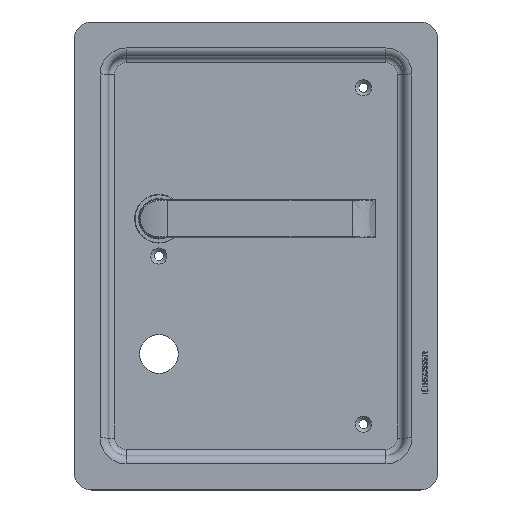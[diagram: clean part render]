
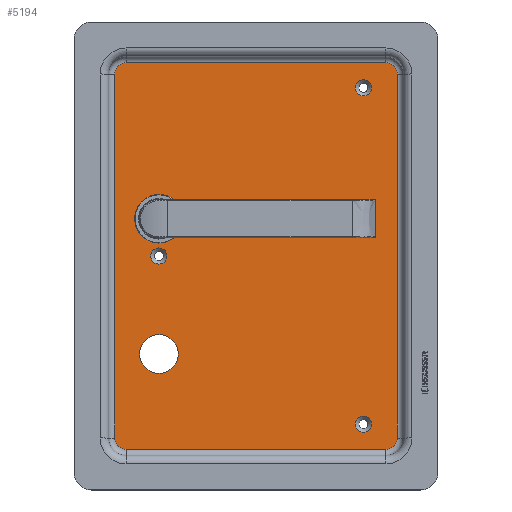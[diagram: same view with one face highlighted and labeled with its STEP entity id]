
A CAD part, top view. The second image highlights one B-rep face of the part: STEP entity #5194.
In plain terms, the highlighted planar face has unit normal (0, 0, 1).
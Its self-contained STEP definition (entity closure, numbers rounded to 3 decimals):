
#299=LINE('',#7328,#691);
#300=LINE('',#7336,#692);
#302=LINE('',#7348,#694);
#305=LINE('',#7360,#697);
#691=VECTOR('',#6092,10.);
#692=VECTOR('',#6103,10.);
#694=VECTOR('',#6117,10.);
#697=VECTOR('',#6132,10.);
#1156=FACE_BOUND('',#1626,.T.);
#1157=FACE_BOUND('',#1627,.T.);
#1158=FACE_BOUND('',#1628,.T.);
#1159=FACE_BOUND('',#1629,.T.);
#1160=FACE_BOUND('',#1630,.T.);
#1285=FACE_OUTER_BOUND('',#1625,.T.);
#1625=EDGE_LOOP('',(#3741,#3742,#3743,#3744,#3745,#3746,#3747,#3748));
#1626=EDGE_LOOP('',(#3749));
#1627=EDGE_LOOP('',(#3750));
#1628=EDGE_LOOP('',(#3751));
#1629=EDGE_LOOP('',(#3752));
#1630=EDGE_LOOP('',(#3753));
#1941=CIRCLE('',#5515,6.5);
#1944=CIRCLE('',#5520,6.5);
#1947=CIRCLE('',#5525,6.5);
#1951=CIRCLE('',#5531,6.5);
#1996=CIRCLE('',#5632,4.65);
#1997=CIRCLE('',#5634,4.65);
#1998=CIRCLE('',#5636,14.);
#1999=CIRCLE('',#5637,11.15);
#2000=CIRCLE('',#5638,4.65);
#2129=VERTEX_POINT('',#7321);
#2130=VERTEX_POINT('',#7323);
#2131=VERTEX_POINT('',#7327);
#2132=VERTEX_POINT('',#7331);
#2133=VERTEX_POINT('',#7335);
#2135=VERTEX_POINT('',#7341);
#2137=VERTEX_POINT('',#7347);
#2139=VERTEX_POINT('',#7353);
#2313=VERTEX_POINT('',#7921);
#2314=VERTEX_POINT('',#7924);
#2315=VERTEX_POINT('',#7927);
#2316=VERTEX_POINT('',#7929);
#2317=VERTEX_POINT('',#7931);
#2630=EDGE_CURVE('',#2130,#2129,#1941,.T.);
#2632=EDGE_CURVE('',#2131,#2130,#299,.T.);
#2634=EDGE_CURVE('',#2132,#2131,#1944,.T.);
#2636=EDGE_CURVE('',#2133,#2132,#300,.T.);
#2639=EDGE_CURVE('',#2135,#2133,#1947,.T.);
#2642=EDGE_CURVE('',#2137,#2135,#302,.T.);
#2645=EDGE_CURVE('',#2139,#2137,#1951,.T.);
#2649=EDGE_CURVE('',#2129,#2139,#305,.T.);
#2855=EDGE_CURVE('',#2313,#2313,#1996,.T.);
#2856=EDGE_CURVE('',#2314,#2314,#1997,.T.);
#2857=EDGE_CURVE('',#2315,#2315,#1998,.T.);
#2858=EDGE_CURVE('',#2316,#2316,#1999,.T.);
#2859=EDGE_CURVE('',#2317,#2317,#2000,.T.);
#3741=ORIENTED_EDGE('',*,*,#2649,.T.);
#3742=ORIENTED_EDGE('',*,*,#2645,.T.);
#3743=ORIENTED_EDGE('',*,*,#2642,.T.);
#3744=ORIENTED_EDGE('',*,*,#2639,.T.);
#3745=ORIENTED_EDGE('',*,*,#2636,.T.);
#3746=ORIENTED_EDGE('',*,*,#2634,.T.);
#3747=ORIENTED_EDGE('',*,*,#2632,.T.);
#3748=ORIENTED_EDGE('',*,*,#2630,.T.);
#3749=ORIENTED_EDGE('',*,*,#2857,.T.);
#3750=ORIENTED_EDGE('',*,*,#2858,.T.);
#3751=ORIENTED_EDGE('',*,*,#2856,.F.);
#3752=ORIENTED_EDGE('',*,*,#2855,.F.);
#3753=ORIENTED_EDGE('',*,*,#2859,.F.);
#4700=PLANE('',#5635);
#5194=ADVANCED_FACE('',(#1285,#1156,#1157,#1158,#1159,#1160),#4700,.F.);
#5515=AXIS2_PLACEMENT_3D('',#7324,#6086,#6087);
#5520=AXIS2_PLACEMENT_3D('',#7332,#6097,#6098);
#5525=AXIS2_PLACEMENT_3D('',#7342,#6109,#6110);
#5531=AXIS2_PLACEMENT_3D('',#7354,#6123,#6124);
#5632=AXIS2_PLACEMENT_3D('',#7922,#6430,#6431);
#5634=AXIS2_PLACEMENT_3D('',#7925,#6434,#6435);
#5635=AXIS2_PLACEMENT_3D('',#7926,#6436,#6437);
#5636=AXIS2_PLACEMENT_3D('',#7928,#6438,#6439);
#5637=AXIS2_PLACEMENT_3D('',#7930,#6440,#6441);
#5638=AXIS2_PLACEMENT_3D('',#7932,#6442,#6443);
#6086=DIRECTION('center_axis',(0.,0.,
1.));
#6087=DIRECTION('ref_axis',(-0.707,-0.707,0.));
#6092=DIRECTION('',(0.,-1.,0.));
#6097=DIRECTION('center_axis',(0.,0.,
1.));
#6098=DIRECTION('ref_axis',(-0.707,0.707,0.));
#6103=DIRECTION('',(-1.,0.,0.));
#6109=DIRECTION('center_axis',(0.,0.,
1.));
#6110=DIRECTION('ref_axis',(0.707,0.707,0.));
#6117=DIRECTION('',(0.,1.,0.));
#6123=DIRECTION('center_axis',(0.,0.,
1.));
#6124=DIRECTION('ref_axis',(0.707,-0.707,0.));
#6132=DIRECTION('',(1.,0.,0.));
#6430=DIRECTION('center_axis',(0.,0.,
1.));
#6431=DIRECTION('ref_axis',(-1.,0.,0.));
#6434=DIRECTION('center_axis',(0.,0.,
1.));
#6435=DIRECTION('ref_axis',(-1.,0.,0.));
#6436=DIRECTION('center_axis',(0.,0.,
-1.));
#6437=DIRECTION('ref_axis',(-1.,0.,0.));
#6438=DIRECTION('center_axis',(0.,0.,
-1.));
#6439=DIRECTION('ref_axis',(0.,1.,0.));
#6440=DIRECTION('center_axis',(0.,0.,
-1.));
#6441=DIRECTION('ref_axis',(-1.,0.,0.));
#6442=DIRECTION('center_axis',(0.,0.,
1.));
#6443=DIRECTION('ref_axis',(-1.,0.,0.));
#7321=CARTESIAN_POINT('',(-77.269,-100.155,-5.503));
#7323=CARTESIAN_POINT('',(-83.769,-93.655,-5.503));
#7324=CARTESIAN_POINT('Origin',(-77.269,-93.655,-5.503));
#7327=CARTESIAN_POINT('',(-83.769,116.345,-5.503));
#7328=CARTESIAN_POINT('',(-83.769,63.845,-5.503));
#7331=CARTESIAN_POINT('',(-77.269,122.845,-5.503));
#7332=CARTESIAN_POINT('Origin',(-77.269,116.345,-5.503));
#7335=CARTESIAN_POINT('',(72.731,122.845,-5.503));
#7336=CARTESIAN_POINT('',(35.231,122.845,-5.503));
#7341=CARTESIAN_POINT('',(79.231,116.345,-5.503));
#7342=CARTESIAN_POINT('Origin',(72.731,116.345,-5.503));
#7347=CARTESIAN_POINT('',(79.231,-93.655,-5.503));
#7348=CARTESIAN_POINT('',(79.231,-41.155,-5.503));
#7353=CARTESIAN_POINT('',(72.731,-100.155,-5.503));
#7354=CARTESIAN_POINT('Origin',(72.731,-93.655,-5.503));
#7360=CARTESIAN_POINT('',(-39.769,-100.155,-5.503));
#7921=CARTESIAN_POINT('',(64.381,-85.655,-5.503));
#7922=CARTESIAN_POINT('Origin',(59.731,-85.655,-5.503));
#7924=CARTESIAN_POINT('',(-53.619,11.345,-5.503));
#7925=CARTESIAN_POINT('Origin',(-58.269,11.345,-5.503));
#7926=CARTESIAN_POINT('Origin',(-2.269,11.345,-5.503));
#7927=CARTESIAN_POINT('',(-58.269,18.845,-5.503));
#7928=CARTESIAN_POINT('Origin',(-58.269,32.845,-5.503));
#7929=CARTESIAN_POINT('',(-47.119,-45.155,-5.503));
#7930=CARTESIAN_POINT('Origin',(-58.269,-45.155,-5.503));
#7931=CARTESIAN_POINT('',(64.381,108.345,-5.503));
#7932=CARTESIAN_POINT('Origin',(59.731,108.345,-5.503));
